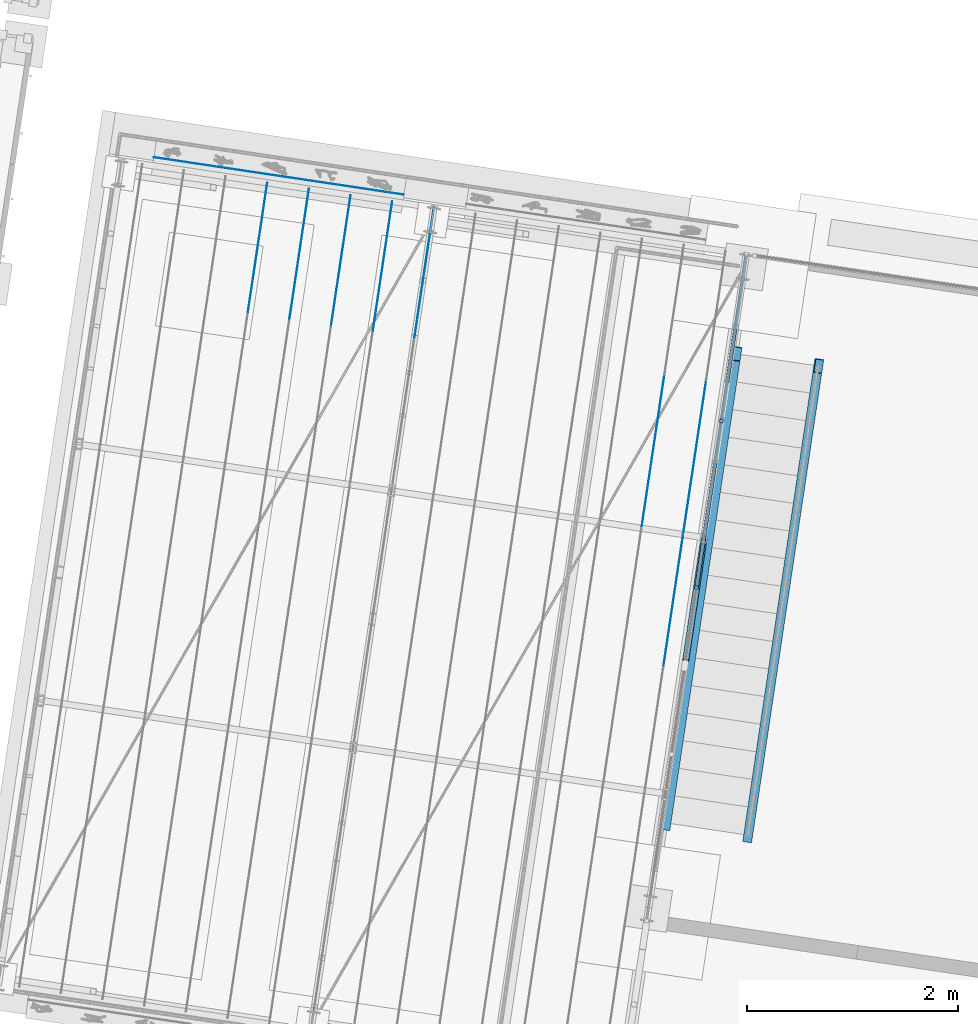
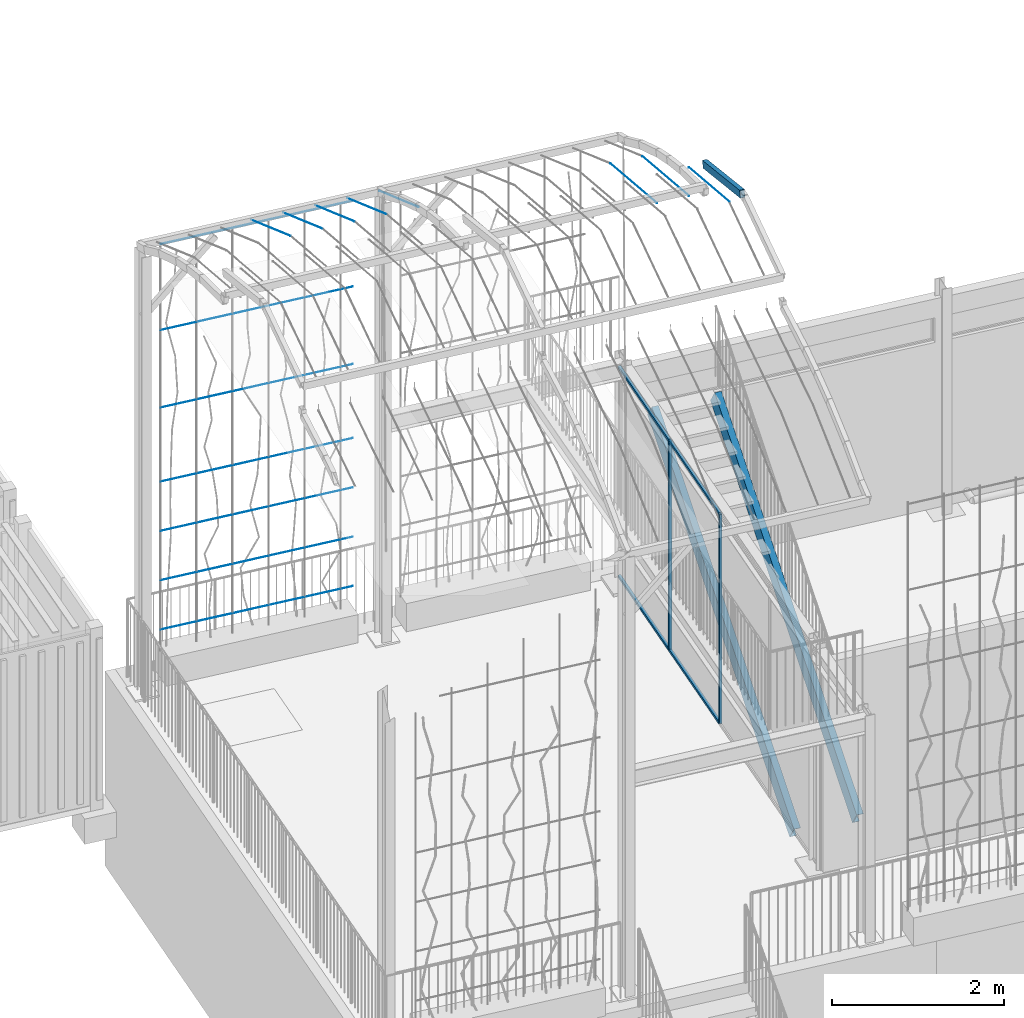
# One storey, part 32 of 142: 26 members, 3 elements without a shape of their own.
"""IFC4 building model written with IfcOpenShell, lengths in metres."""

import ifcopenshell
import ifcopenshell.guid

model = None  # the IFC model being written
_history = None  # IfcOwnerHistory: only IFC2X3 demands one
_inside = {}  # id of a spatial element -> (the spatial element, [elements in it])
_under = {}  # id of a project, library or spatial element -> (it, [spatial elements below it])
_declared = {}  # id of a project -> (the project, [libraries it declares])
_typed = {}  # id of a type object -> (the type object, [elements of that type])
_made_of = {}  # id of a material, layer set ... -> (it, [elements and type objects made of it])


def new_model(schema):
    """Start an empty IFC model of exactly this schema.

    Asked for "IFC4X3", IfcOpenShell would pick the latest addendum, in which some entities
    have other attributes; the version numbers below select the first issue.
    IFC2X3 requires an IfcOwnerHistory on every rooted entity: one is made here for all.
    """
    global model, _history
    if schema == "IFC4X3":
        model = ifcopenshell.file(schema_version=(4, 3, 0, 0))
    else:
        model = ifcopenshell.file(schema=schema)
    _inside.clear()
    _under.clear()
    _declared.clear()
    _typed.clear()
    _made_of.clear()
    _history = None
    if model.schema == "IFC2X3":
        org = make("IfcOrganization", Name="unknown")
        user = make(
            "IfcPersonAndOrganization",
            ThePerson=make("IfcPerson", FamilyName="unknown"),
            TheOrganization=org,
        )
        app = make(
            "IfcApplication",
            ApplicationDeveloper=org,
            Version="unknown",
            ApplicationFullName="unknown",
            ApplicationIdentifier="unknown",
        )
        _history = make(
            "IfcOwnerHistory",
            OwningUser=user,
            OwningApplication=app,
            ChangeAction="ADDED",
            CreationDate=0,
        )
    return model


def make(cls, **values):
    """One entity of the class cls with the attributes given. An attribute that is None is left unset."""
    return model.create_entity(
        cls, **{name: value for name, value in values.items() if value is not None}
    )


def rooted(cls, **values):
    """An entity with a GlobalId (a new one), such as an element, a storey or a relation."""
    return make(cls, GlobalId=ifcopenshell.guid.new(), OwnerHistory=_history, **values)


def si_unit(unit_type, name, prefix=None):
    """IfcSIUnit, for example si_unit("LENGTHUNIT", "METRE", prefix="MILLI")."""
    return make("IfcSIUnit", UnitType=unit_type, Prefix=prefix, Name=name)


def assignment(units):
    """IfcUnitAssignment: the units of a project."""
    return None if units is None else make("IfcUnitAssignment", Units=units)


def point(xyz):
    """IfcCartesianPoint."""
    return None if xyz is None else make("IfcCartesianPoint", Coordinates=xyz)


def direction(xyz):
    """IfcDirection."""
    return None if xyz is None else make("IfcDirection", DirectionRatios=xyz)


def frame(location, z_axis=None, x_axis=None):
    """IfcAxis2Placement3D, a coordinate frame: its origin and axes. An axis left out is left unset."""
    return make(
        "IfcAxis2Placement3D",
        Location=point(location),
        Axis=direction(z_axis),
        RefDirection=direction(x_axis),
    )


def origin_with_axes():
    """The frame at (0, 0, 0) with the z axis (0, 0, 1) and the x axis (1, 0, 0) written out."""
    return frame((0.0, 0.0, 0.0), z_axis=(0.0, 0.0, 1.0), x_axis=(1.0, 0.0, 0.0))


def place(relative_to, where):
    """IfcLocalPlacement: puts the frame where relative to a parent placement (None: the world)."""
    return make(
        "IfcLocalPlacement", PlacementRelTo=relative_to, RelativePlacement=where
    )


def context(
    kind, dimensions, precision=None, world=None, true_north=None, identifier=None
):
    """IfcGeometricRepresentationContext, for example the 3D "Model" context."""
    return make(
        "IfcGeometricRepresentationContext",
        ContextIdentifier=identifier,
        ContextType=kind,
        CoordinateSpaceDimension=dimensions,
        Precision=precision,
        WorldCoordinateSystem=world,
        TrueNorth=true_north,
    )


def subcontext(parent, identifier, kind, view, scale=None):
    """IfcGeometricRepresentationSubContext, for example "Body" below "Model"."""
    return make(
        "IfcGeometricRepresentationSubContext",
        ContextIdentifier=identifier,
        ContextType=kind,
        ParentContext=parent,
        TargetScale=scale,
        TargetView=view,
    )


def project(units=None, contexts=None):
    """IfcProject with its units and contexts."""
    return rooted(
        "IfcProject",
        Name="project",
        RepresentationContexts=contexts,
        UnitsInContext=assignment(units),
    )


def spatial(cls, under=None, at=None, **own):
    """A site, building, storey or space (cls), placed at a placement, below another one or the project."""
    s = rooted(cls, ObjectPlacement=at, **own)
    if under is not None:
        _under.setdefault(under.id(), (under, []))[1].append(s)
    return s


def polyline(points):
    """IfcPolyline through the points."""
    return make("IfcPolyline", Points=[point(p) for p in points])


def profile(cls, at=None, kind="AREA", **sizes):
    """A parametric profile (cls). Its sizes go by their IFC names, for example OverallWidth=200.0."""
    return make(cls, ProfileType=kind, Position=at, **sizes)


def rectangle(**sizes):
    """IfcRectangleProfileDef."""
    return profile("IfcRectangleProfileDef", **sizes)


def hollow_rectangle(**sizes):
    """IfcRectangleHollowProfileDef."""
    return profile("IfcRectangleHollowProfileDef", **sizes)


def circle(**sizes):
    """IfcCircleProfileDef."""
    return profile("IfcCircleProfileDef", **sizes)


def outline(outer, holes=None, kind="AREA"):
    """IfcArbitraryClosedProfileDef: a profile drawn as a closed curve; with holes, ...WithVoids."""
    if holes is None:
        return make("IfcArbitraryClosedProfileDef", ProfileType=kind, OuterCurve=outer)
    return make(
        "IfcArbitraryProfileDefWithVoids",
        ProfileType=kind,
        OuterCurve=outer,
        InnerCurves=holes,
    )


def extrude(swept, where, along, depth):
    """IfcExtrudedAreaSolid: the profile swept, set in the frame where, extruded along a direction by depth."""
    return make(
        "IfcExtrudedAreaSolid",
        SweptArea=swept,
        Position=where,
        ExtrudedDirection=direction(along),
        Depth=depth,
    )


def shape(context_of_items, identifier, shape_type, items):
    """IfcShapeRepresentation: the items that make up one representation, for example the "Body"."""
    return make(
        "IfcShapeRepresentation",
        ContextOfItems=context_of_items,
        RepresentationIdentifier=identifier,
        RepresentationType=shape_type,
        Items=items,
    )


def material(Name=None, Category=None):
    """IfcMaterial."""
    return make("IfcMaterial", Name=Name, Category=Category)


def material_profile(
    of_material, cross_section, Name=None, Category=None, Priority=None
):
    """IfcMaterialProfile: a cross section and its material."""
    return make(
        "IfcMaterialProfile",
        Name=Name,
        Material=of_material,
        Profile=cross_section,
        Priority=Priority,
        Category=Category,
    )


def profile_set(profiles, Name=None, composite=None):
    """IfcMaterialProfileSet."""
    return make(
        "IfcMaterialProfileSet",
        Name=Name,
        MaterialProfiles=profiles,
        CompositeProfile=composite,
    )


def profile_usage(for_profile_set, cardinal=None, extent=None):
    """IfcMaterialProfileSetUsage: how a profile set lies along its element."""
    return make(
        "IfcMaterialProfileSetUsage",
        ForProfileSet=for_profile_set,
        CardinalPoint=cardinal,
        ReferenceExtent=extent,
    )


def made_of(thing, what):
    """Note that an element or type object is made of a material, layer set ...; save() writes the relation."""
    if what is not None:
        _made_of.setdefault(what.id(), (what, []))[1].append(thing)
    return thing


def type_object(cls, material=None, **own):
    """A type object (cls), such as IfcWallType, which elements share."""
    return made_of(rooted(cls, **own), material)


def element(
    cls,
    number,
    at=None,
    inside=None,
    cuts=None,
    type_object=None,
    material=None,
    context=None,
    identifier="Body",
    shape_type=None,
    held_by="IfcProductDefinitionShape",
    body=None,
    shapes=None,
    **own,
):
    """One element of the class cls, such as IfcWall. Its Tag is "e" and its number.

    at: its placement. inside: the storey or other place that contains it. cuts: it is an
    opening in that element (IfcRelVoidsElement). A single representation is given by context,
    identifier, shape_type and body (its items); several are given by shapes. held_by: the class
    of the entity that holds the representations. save() writes the other relations.
    """
    e = rooted(cls, Tag="e%d" % number, ObjectPlacement=at, **own)
    if body is not None:
        shapes = [shape(context, identifier, shape_type, body)]
    if shapes is not None:
        e.Representation = make(held_by, Representations=shapes)
    if inside is not None:
        _inside.setdefault(inside.id(), (inside, []))[1].append(e)
    if cuts is not None:
        rooted(
            "IfcRelVoidsElement", RelatingBuildingElement=cuts, RelatedOpeningElement=e
        )
    if type_object is not None:
        _typed.setdefault(type_object.id(), (type_object, []))[1].append(e)
    return made_of(e, material)


def aggregate(whole, parts):
    """IfcRelAggregates: a whole, such as a stair, and the parts it consists of."""
    return rooted("IfcRelAggregates", RelatingObject=whole, RelatedObjects=parts)


def save(model, path):
    """Write the relations noted so far, then the file.

    IfcRelAggregates (storeys below a building ...), IfcRelContainedInSpatialStructure (elements
    in a storey), IfcRelDefinesByType, IfcRelAssociatesMaterial and IfcRelDeclares: one each for
    every whole, place, type object, material and project.
    """
    for whole, parts in _under.values():
        aggregate(whole, parts)
    for where, things in _inside.values():
        rooted(
            "IfcRelContainedInSpatialStructure",
            RelatedElements=things,
            RelatingStructure=where,
        )
    for kind, things in _typed.values():
        rooted("IfcRelDefinesByType", RelatedObjects=things, RelatingType=kind)
    for what, things in _made_of.values():
        rooted("IfcRelAssociatesMaterial", RelatedObjects=things, RelatingMaterial=what)
    for by, libraries in _declared.values():
        rooted("IfcRelDeclares", RelatingContext=by, RelatedDefinitions=libraries)
    model.write(path)


model = new_model("IFC4")

# Units and contexts
model_context = context("Model", 3, precision=1e-05, world=origin_with_axes(), true_north=direction((0.0, 1.0)))
body_context = subcontext(model_context, "Body", "Model", "MODEL_VIEW")
ifc_project = project(units=[si_unit("VOLUMEUNIT", "CUBIC_METRE"), si_unit("LENGTHUNIT", "METRE"), si_unit("AREAUNIT", "SQUARE_METRE")], contexts=[model_context])

# Site, building, storey
site_placement = place(None, origin_with_axes())
site = spatial("IfcSite", under=ifc_project, at=site_placement, Name="Lares · Rua das Mercês · artigo 4771")
building_placement = place(site_placement, frame((12.0, 10.2, 13.9), z_axis=(0.0, 0.0, 1.0), x_axis=(0.989015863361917, -0.147809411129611, 0.0)))
building = spatial("IfcBuilding", under=site, at=building_placement, Name="Casa Sobreposta")
storey_placement = place(building_placement, origin_with_axes())
storey = spatial("IfcBuildingStorey", under=building, at=storey_placement, Name="00 · Habitação e estacionamento", Elevation=13.9)

# Members
ifc_material_1 = material(Name="Aço pintado / Stahl lackiert", Category="steel")
ifc_material_profile_1 = material_profile(ifc_material_1, rectangle(XDim=0.035, YDim=0.035))
ifc_profile_set_1 = profile_set([ifc_material_profile_1], Name="R0.035")
ifc_profile_usage_1 = profile_usage(ifc_profile_set_1)
member_type_1 = type_object("IfcMemberType", Name="R0.035 / steel", PredefinedType="NOTDEFINED", material=ifc_profile_set_1)
member_1_placement = place(storey_placement, frame((0.0, 3.2, 0.0), z_axis=(0.0, 0.0, 1.0), x_axis=(1.0, 0.0, 0.0)))
element("IfcMember", 1, at=member_1_placement, inside=storey, type_object=member_type_1, material=ifc_profile_usage_1, context=body_context, shape_type="SweptSolid", body=[
    extrude(rectangle(XDim=0.035, YDim=0.035), origin_with_axes(), (0.0, 0.0, 1.0), 2.968),
])
ifc_profile_usage_2 = profile_usage(ifc_profile_set_1)
member_2_placement = place(storey_placement, frame((0.0, 3.2, 0.0), z_axis=(0.0, 0.0, 1.0), x_axis=(1.0, 0.0, 0.0)))
element("IfcMember", 2, at=member_2_placement, inside=storey, type_object=member_type_1, material=ifc_profile_usage_2, context=body_context, shape_type="SweptSolid", body=[
    extrude(rectangle(XDim=0.035, YDim=0.035), origin_with_axes(), (0.0, 0.0, 1.0), 2.968),
])
ifc_profile_usage_3 = profile_usage(ifc_profile_set_1)
member_3_placement = place(storey_placement, frame((0.0, 4.8, 0.0), z_axis=(0.0, 0.0, 1.0), x_axis=(1.0, 0.0, 0.0)))
element("IfcMember", 3, at=member_3_placement, inside=storey, type_object=member_type_1, material=ifc_profile_usage_3, context=body_context, shape_type="SweptSolid", body=[
    extrude(rectangle(XDim=0.035, YDim=0.035), origin_with_axes(), (0.0, 0.0, 1.0), 2.968),
])
ifc_profile_usage_4 = profile_usage(ifc_profile_set_1)
member_4_placement = place(storey_placement, frame((0.0, 3.2, 0.0), z_axis=(0.0, 1.0, 0.0), x_axis=(1.0, 0.0, 0.0)))
element("IfcMember", 4, at=member_4_placement, inside=storey, type_object=member_type_1, material=ifc_profile_usage_4, Name="Fachada poente integralmente envidraçada · módulo 3 · travessa", context=body_context, shape_type="SweptSolid", body=[
    extrude(rectangle(XDim=0.035, YDim=0.035), origin_with_axes(), (0.0, 0.0, 1.0), 1.6),
])
ifc_profile_usage_5 = profile_usage(ifc_profile_set_1)
member_5_placement = place(storey_placement, frame((0.0, 3.2, 2.968), z_axis=(0.0, 1.0, 0.0), x_axis=(1.0, 0.0, 0.0)))
element("IfcMember", 5, at=member_5_placement, inside=storey, type_object=member_type_1, material=ifc_profile_usage_5, Name="Fachada poente integralmente envidraçada · módulo 3 · travessa", context=body_context, shape_type="SweptSolid", body=[
    extrude(rectangle(XDim=0.035, YDim=0.035), origin_with_axes(), (0.0, 0.0, 1.0), 1.6),
])
ifc_profile_usage_6 = profile_usage(ifc_profile_set_1)
member_6_placement = place(storey_placement, frame((0.0, 4.8, 0.0), z_axis=(0.0, 0.0, 1.0), x_axis=(1.0, 0.0, 0.0)))
element("IfcMember", 6, at=member_6_placement, inside=storey, type_object=member_type_1, material=ifc_profile_usage_6, context=body_context, shape_type="SweptSolid", body=[
    extrude(rectangle(XDim=0.035, YDim=0.035), origin_with_axes(), (0.0, 0.0, 1.0), 2.968),
])
ifc_profile_usage_7 = profile_usage(ifc_profile_set_1)
member_7_placement = place(storey_placement, frame((0.0, 4.8, 0.0), z_axis=(0.0, 1.0, 0.0), x_axis=(1.0, 0.0, 0.0)))
element("IfcMember", 7, at=member_7_placement, inside=storey, type_object=member_type_1, material=ifc_profile_usage_7, Name="Fachada poente integralmente envidraçada · módulo 4 · travessa", context=body_context, shape_type="SweptSolid", body=[
    extrude(rectangle(XDim=0.035, YDim=0.035), origin_with_axes(), (0.0, 0.0, 1.0), 1.6),
])
ifc_profile_usage_8 = profile_usage(ifc_profile_set_1)
member_8_placement = place(storey_placement, frame((0.0, 4.8, 2.968), z_axis=(0.0, 1.0, 0.0), x_axis=(1.0, 0.0, 0.0)))
element("IfcMember", 8, at=member_8_placement, inside=storey, type_object=member_type_1, material=ifc_profile_usage_8, Name="Fachada poente integralmente envidraçada · módulo 4 · travessa", context=body_context, shape_type="SweptSolid", body=[
    extrude(rectangle(XDim=0.035, YDim=0.035), origin_with_axes(), (0.0, 0.0, 1.0), 1.6),
])

# Stair, members
stair_placement = place(storey_placement, origin_with_axes())
stair = element("IfcStair", 9, at=stair_placement, inside=storey, Name="Escada sala", PredefinedType="STRAIGHT_RUN_STAIR")
ifc_material_profile_2 = material_profile(ifc_material_1, outline(polyline([(-0.0425, -0.12), (0.0425, -0.12), (0.0425, -0.1102), (-0.0325, -0.1102), (-0.0325, 0.1102), (0.0425, 0.1102), (0.0425, 0.12), (-0.0425, 0.12), (-0.0425, -0.12)])))
ifc_profile_set_2 = profile_set([ifc_material_profile_2], Name="C240")
ifc_profile_usage_9 = profile_usage(ifc_profile_set_2)
member_type_2 = type_object("IfcMemberType", Name="C240 / steel", PredefinedType="NOTDEFINED", material=ifc_profile_set_2)
member_9_placement = place(stair_placement, frame((0.0475, 0.9475, -0.1), z_axis=(0.0, 0.827216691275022, 0.561883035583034), x_axis=(1.0, 0.0, 0.0)))
member_9 = element("IfcMember", 10, at=member_9_placement, type_object=member_type_2, material=ifc_profile_usage_9, Name="Longarina metálica sala", context=body_context, shape_type="SweptSolid", body=[
    extrude(outline(polyline([(-0.0425, -0.12), (0.0425, -0.12), (0.0425, -0.1102), (-0.0325, -0.1102), (-0.0325, 0.1102), (0.0425, 0.1102), (0.0425, 0.12), (-0.0425, 0.12), (-0.0425, -0.12)])), origin_with_axes(), (0.0, 0.0, 1.0), 5.44597328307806),
])
ifc_profile_usage_10 = profile_usage(ifc_profile_set_2)
member_10_placement = place(stair_placement, frame((0.8325, 0.9475, -0.1), z_axis=(0.0, 0.827216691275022, 0.561883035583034), x_axis=(1.0, 0.0, 0.0)))
member_10 = element("IfcMember", 11, at=member_10_placement, type_object=member_type_2, material=ifc_profile_usage_10, Name="Longarina metálica sala", context=body_context, shape_type="SweptSolid", body=[
    extrude(outline(polyline([(-0.0425, -0.12), (0.0425, -0.12), (0.0425, -0.1102), (-0.0325, -0.1102), (-0.0325, 0.1102), (0.0425, 0.1102), (0.0425, 0.12), (-0.0425, 0.12), (-0.0425, -0.12)])), origin_with_axes(), (0.0, 0.0, 1.0), 5.44597328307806),
])
aggregate(stair, [member_9, member_10])

# Assembly, members
assembly_1_placement = place(storey_placement, origin_with_axes())
assembly_1 = element("IfcElementAssembly", 12, at=assembly_1_placement, inside=storey, Name="Pérgola · prolongamento da estufa 6 m", ObjectType="PERGOLA_GREENHOUSE_EXTENSION", PredefinedType="USERDEFINED")
ifc_material_profile_3 = material_profile(ifc_material_1, hollow_rectangle(XDim=0.06, YDim=0.1, WallThickness=0.004))
ifc_profile_set_3 = profile_set([ifc_material_profile_3], Name="RHS100x60x4")
ifc_profile_usage_11 = profile_usage(ifc_profile_set_3)
member_type_3 = type_object("IfcMemberType", Name="RHS100x60x4 / steel", PredefinedType="NOTDEFINED", material=ifc_profile_set_3)
member_11_placement = place(assembly_1_placement, frame((0.0, 2.49770027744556, 7.96518238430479), z_axis=(0.0, 0.96007374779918, -0.279747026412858), x_axis=(1.0, 0.0, 0.0)))
member_11 = element("IfcMember", 13, at=member_11_placement, type_object=member_type_3, material=ifc_profile_usage_11, Name="Pérgola · arco contínuo com a estufa", context=body_context, shape_type="SweptSolid", body=[
    extrude(hollow_rectangle(XDim=0.06, YDim=0.1, WallThickness=0.004), origin_with_axes(), (0.0, 0.0, 1.0), 1.23148937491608),
])
ifc_material_2 = material(Name="Aço galvanizado / Stahl verzinkt", Category="steel")
ifc_material_profile_4 = material_profile(ifc_material_2, circle(Radius=0.002))
ifc_profile_set_4 = profile_set([ifc_material_profile_4], Name="D0.004")
ifc_profile_usage_12 = profile_usage(ifc_profile_set_4)
member_type_4 = type_object("IfcMemberType", Name="D0.004 / galvanized", PredefinedType="NOTDEFINED", material=ifc_profile_set_4)
member_12_placement = place(assembly_1_placement, frame((-4.6, 5.15650506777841, 6.8157371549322), z_axis=(0.0, 0.905864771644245, -0.423567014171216), x_axis=(1.0, 0.0, 0.0)))
member_12 = element("IfcMember", 14, at=member_12_placement, type_object=member_type_4, material=ifc_profile_usage_12, Name="Pérgola · fio para trepadeiras", context=body_context, shape_type="SweptSolid", body=[
    extrude(circle(Radius=0.002), origin_with_axes(), (0.0, 0.0, 1.0), 1.3727158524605),
])
ifc_profile_usage_13 = profile_usage(ifc_profile_set_4)
member_13_placement = place(assembly_1_placement, frame((-4.2, 5.15650506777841, 6.8157371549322), z_axis=(0.0, 0.905864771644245, -0.423567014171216), x_axis=(1.0, 0.0, 0.0)))
member_13 = element("IfcMember", 15, at=member_13_placement, type_object=member_type_4, material=ifc_profile_usage_13, Name="Pérgola · fio para trepadeiras", context=body_context, shape_type="SweptSolid", body=[
    extrude(circle(Radius=0.002), origin_with_axes(), (0.0, 0.0, 1.0), 1.3727158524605),
])
ifc_profile_usage_14 = profile_usage(ifc_profile_set_4)
member_14_placement = place(assembly_1_placement, frame((-3.8, 5.15650506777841, 6.8157371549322), z_axis=(0.0, 0.905864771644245, -0.423567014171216), x_axis=(1.0, 0.0, 0.0)))
member_14 = element("IfcMember", 16, at=member_14_placement, type_object=member_type_4, material=ifc_profile_usage_14, Name="Pérgola · fio para trepadeiras", context=body_context, shape_type="SweptSolid", body=[
    extrude(circle(Radius=0.002), origin_with_axes(), (0.0, 0.0, 1.0), 1.3727158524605),
])
ifc_profile_usage_15 = profile_usage(ifc_profile_set_4)
member_15_placement = place(assembly_1_placement, frame((-3.4, 5.15650506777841, 6.8157371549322), z_axis=(0.0, 0.905864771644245, -0.423567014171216), x_axis=(1.0, 0.0, 0.0)))
member_15 = element("IfcMember", 17, at=member_15_placement, type_object=member_type_4, material=ifc_profile_usage_15, Name="Pérgola · fio para trepadeiras", context=body_context, shape_type="SweptSolid", body=[
    extrude(circle(Radius=0.002), origin_with_axes(), (0.0, 0.0, 1.0), 1.3727158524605),
])
ifc_profile_usage_16 = profile_usage(ifc_profile_set_4)
member_16_placement = place(assembly_1_placement, frame((-3.0, 5.15650506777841, 6.8157371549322), z_axis=(0.0, 0.905864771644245, -0.423567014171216), x_axis=(1.0, 0.0, 0.0)))
member_16 = element("IfcMember", 18, at=member_16_placement, type_object=member_type_4, material=ifc_profile_usage_16, Name="Pérgola · fio para trepadeiras", context=body_context, shape_type="SweptSolid", body=[
    extrude(circle(Radius=0.002), origin_with_axes(), (0.0, 0.0, 1.0), 1.3727158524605),
])
ifc_profile_usage_17 = profile_usage(ifc_profile_set_4)
member_17_placement = place(assembly_1_placement, frame((-0.599999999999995, 3.68573096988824, 7.21327919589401), z_axis=(0.0, 0.965357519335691, -0.260930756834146), x_axis=(1.0, 0.0, 0.0)))
member_17 = element("IfcMember", 19, at=member_17_placement, type_object=member_type_4, material=ifc_profile_usage_17, Name="Pérgola · fio para trepadeiras", context=body_context, shape_type="SweptSolid", body=[
    extrude(circle(Radius=0.002), origin_with_axes(), (0.0, 0.0, 1.0), 1.523553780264),
])
ifc_profile_usage_18 = profile_usage(ifc_profile_set_4)
member_18_placement = place(assembly_1_placement, frame((-0.199999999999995, 2.40274082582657, 7.96518238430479), z_axis=(0.0, 0.965497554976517, -0.260412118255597), x_axis=(1.0, 0.0, 0.0)))
member_18 = element("IfcMember", 20, at=member_18_placement, type_object=member_type_4, material=ifc_profile_usage_18, Name="Pérgola · fio para trepadeiras", context=body_context, shape_type="SweptSolid", body=[
    extrude(circle(Radius=0.002), origin_with_axes(), (0.0, 0.0, 1.0), 1.32292419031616),
])
ifc_profile_usage_19 = profile_usage(ifc_profile_set_4)
member_19_placement = place(assembly_1_placement, frame((-0.199999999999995, 3.68573096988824, 7.21327919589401), z_axis=(0.0, 0.965357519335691, -0.260930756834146), x_axis=(1.0, 0.0, 0.0)))
member_19 = element("IfcMember", 21, at=member_19_placement, type_object=member_type_4, material=ifc_profile_usage_19, Name="Pérgola · fio para trepadeiras", context=body_context, shape_type="SweptSolid", body=[
    extrude(circle(Radius=0.002), origin_with_axes(), (0.0, 0.0, 1.0), 1.523553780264),
])
aggregate(assembly_1, [member_11, member_12, member_13, member_14, member_15, member_16, member_17, member_18, member_19])

assembly_2_placement = place(storey_placement, origin_with_axes())
assembly_2 = element("IfcElementAssembly", 22, at=assembly_2_placement, inside=storey, Name="Fachada sul e pátio · estrutura e trepadeiras", ObjectType="LIVING_SHADE_TRELLIS", PredefinedType="USERDEFINED")
ifc_profile_usage_20 = profile_usage(ifc_profile_set_4)
member_20_placement = place(assembly_2_placement, frame((-5.7, 6.48, 0.65), z_axis=(1.0, 0.0, 0.0), x_axis=(0.0, -1.0, 0.0)))
member_20 = element("IfcMember", 23, at=member_20_placement, type_object=member_type_4, material=ifc_profile_usage_20, Name="Trepadeiras · fio horizontal", context=body_context, shape_type="SweptSolid", body=[
    extrude(circle(Radius=0.002), origin_with_axes(), (0.0, 0.0, 1.0), 2.4),
])
ifc_profile_usage_21 = profile_usage(ifc_profile_set_4)
member_21_placement = place(assembly_2_placement, frame((-5.7, 6.48, 1.35), z_axis=(1.0, 0.0, 0.0), x_axis=(0.0, -1.0, 0.0)))
member_21 = element("IfcMember", 24, at=member_21_placement, type_object=member_type_4, material=ifc_profile_usage_21, Name="Trepadeiras · fio horizontal", context=body_context, shape_type="SweptSolid", body=[
    extrude(circle(Radius=0.002), origin_with_axes(), (0.0, 0.0, 1.0), 2.4),
])
ifc_profile_usage_22 = profile_usage(ifc_profile_set_4)
member_22_placement = place(assembly_2_placement, frame((-5.7, 6.48, 2.05), z_axis=(1.0, 0.0, 0.0), x_axis=(0.0, -1.0, 0.0)))
member_22 = element("IfcMember", 25, at=member_22_placement, type_object=member_type_4, material=ifc_profile_usage_22, Name="Trepadeiras · fio horizontal", context=body_context, shape_type="SweptSolid", body=[
    extrude(circle(Radius=0.002), origin_with_axes(), (0.0, 0.0, 1.0), 2.4),
])
ifc_profile_usage_23 = profile_usage(ifc_profile_set_4)
member_23_placement = place(assembly_2_placement, frame((-5.7, 6.48, 2.75), z_axis=(1.0, 0.0, 0.0), x_axis=(0.0, -1.0, 0.0)))
member_23 = element("IfcMember", 26, at=member_23_placement, type_object=member_type_4, material=ifc_profile_usage_23, Name="Trepadeiras · fio horizontal", context=body_context, shape_type="SweptSolid", body=[
    extrude(circle(Radius=0.002), origin_with_axes(), (0.0, 0.0, 1.0), 2.4),
])
ifc_profile_usage_24 = profile_usage(ifc_profile_set_4)
member_24_placement = place(assembly_2_placement, frame((-5.7, 6.48, 3.8), z_axis=(1.0, 0.0, 0.0), x_axis=(0.0, -1.0, 0.0)))
member_24 = element("IfcMember", 27, at=member_24_placement, type_object=member_type_4, material=ifc_profile_usage_24, Name="Trepadeiras · fio horizontal", context=body_context, shape_type="SweptSolid", body=[
    extrude(circle(Radius=0.002), origin_with_axes(), (0.0, 0.0, 1.0), 2.4),
])
ifc_profile_usage_25 = profile_usage(ifc_profile_set_4)
member_25_placement = place(assembly_2_placement, frame((-5.7, 6.48, 4.9), z_axis=(1.0, 0.0, 0.0), x_axis=(0.0, -1.0, 0.0)))
member_25 = element("IfcMember", 28, at=member_25_placement, type_object=member_type_4, material=ifc_profile_usage_25, Name="Trepadeiras · fio horizontal", context=body_context, shape_type="SweptSolid", body=[
    extrude(circle(Radius=0.002), origin_with_axes(), (0.0, 0.0, 1.0), 2.4),
])
ifc_profile_usage_26 = profile_usage(ifc_profile_set_4)
member_26_placement = place(assembly_2_placement, frame((-5.7, 6.48, 6.12), z_axis=(1.0, 0.0, 0.0), x_axis=(0.0, -1.0, 0.0)))
member_26 = element("IfcMember", 29, at=member_26_placement, type_object=member_type_4, material=ifc_profile_usage_26, Name="Trepadeiras · fio horizontal", context=body_context, shape_type="SweptSolid", body=[
    extrude(circle(Radius=0.002), origin_with_axes(), (0.0, 0.0, 1.0), 2.4),
])
aggregate(assembly_2, [member_20, member_21, member_22, member_23, member_24, member_25, member_26])

save(model, "model.ifc")
